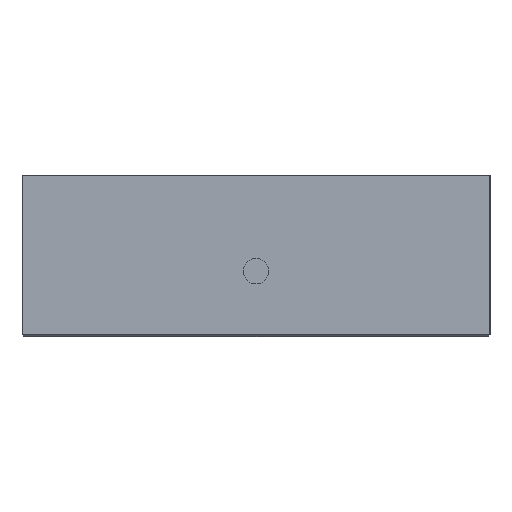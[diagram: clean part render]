
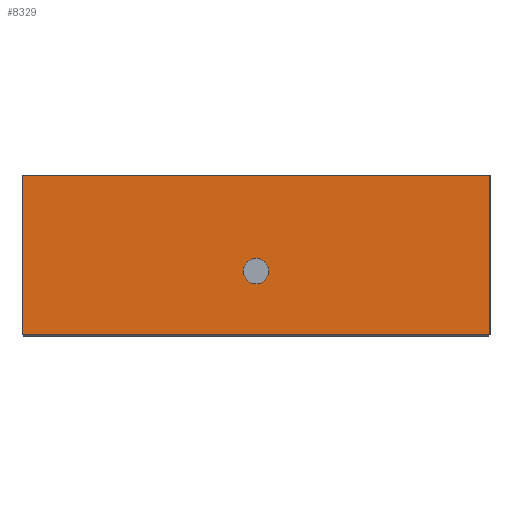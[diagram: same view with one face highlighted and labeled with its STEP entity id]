
A CAD part, left-side view. The second image highlights one B-rep face of the part: STEP entity #8329.
In plain terms, the highlighted planar face has unit normal (-1, 0, 0).
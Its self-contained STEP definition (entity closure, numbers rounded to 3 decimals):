
#167 = CARTESIAN_POINT ( 'NONE',  ( -5., 25.5, 8.56 ) ) ;
#225 = CARTESIAN_POINT ( 'NONE',  ( -5., -5., 195.1 ) ) ;
#389 = ORIENTED_EDGE ( 'NONE', *, *, #10908, .T. ) ;
#392 = DIRECTION ( 'NONE',  ( -1., 0., 0. ) ) ;
#824 = DIRECTION ( 'NONE',  ( 0., -1., 0. ) ) ;
#1388 = CARTESIAN_POINT ( 'NONE',  ( -5., -5., 195.1 ) ) ;
#1540 = FACE_BOUND ( 'NONE', #8788, .T. ) ;
#2083 = EDGE_LOOP ( 'NONE', ( #12547, #10108, #2939, #14561 ) ) ;
#2154 = DIRECTION ( 'NONE',  ( 0., 1., 0. ) ) ;
#2373 = CARTESIAN_POINT ( 'NONE',  ( -5., 56., 21.06 ) ) ;
#2546 = CARTESIAN_POINT ( 'NONE',  ( -5., -5., 0.25 ) ) ;
#2882 = LINE ( 'NONE', #12298, #4487 ) ;
#2939 = ORIENTED_EDGE ( 'NONE', *, *, #3633, .F. ) ;
#3208 = LINE ( 'NONE', #4574, #12568 ) ;
#3599 = AXIS2_PLACEMENT_3D ( 'NONE', #1388, #392, #6028 ) ;
#3633 = EDGE_CURVE ( 'NONE', #12577, #10774, #14051, .T. ) ;
#3834 = LINE ( 'NONE', #2546, #9687 ) ;
#3891 = EDGE_CURVE ( 'NONE', #12785, #12577, #2882, .T. ) ;
#4424 = AXIS2_PLACEMENT_3D ( 'NONE', #167, #4816, #2154 ) ;
#4487 = VECTOR ( 'NONE', #824, 1000. ) ;
#4496 = DIRECTION ( 'NONE',  ( 0., 0., -1. ) ) ;
#4574 = CARTESIAN_POINT ( 'NONE',  ( -5., 56., 195.1 ) ) ;
#4816 = DIRECTION ( 'NONE',  ( 1., 0., 0. ) ) ;
#5935 = CARTESIAN_POINT ( 'NONE',  ( -5., 27.15, 8.56 ) ) ;
#6028 = DIRECTION ( 'NONE',  ( 0., -1., 0. ) ) ;
#6178 = FACE_OUTER_BOUND ( 'NONE', #2083, .T. ) ;
#6266 = CARTESIAN_POINT ( 'NONE',  ( -5., 25.5, 8.56 ) ) ;
#6546 = VERTEX_POINT ( 'NONE', #5935 ) ;
#7513 = EDGE_CURVE ( 'NONE', #11144, #6546, #14261, .T. ) ;
#8329 = ADVANCED_FACE ( 'NONE', ( #1540, #6178 ), #13230, .T. ) ;
#8389 = CARTESIAN_POINT ( 'NONE',  ( -5., -5., 21.06 ) ) ;
#8500 = EDGE_CURVE ( 'NONE', #12785, #14171, #3208, .T. ) ;
#8771 = DIRECTION ( 'NONE',  ( 0., 1., 0. ) ) ;
#8788 = EDGE_LOOP ( 'NONE', ( #14760, #389 ) ) ;
#9239 = CARTESIAN_POINT ( 'NONE',  ( -5., 23.85, 8.56 ) ) ;
#9362 = VECTOR ( 'NONE', #10788, 1000. ) ;
#9687 = VECTOR ( 'NONE', #12943, 1000. ) ;
#10108 = ORIENTED_EDGE ( 'NONE', *, *, #13356, .T. ) ;
#10774 = VERTEX_POINT ( 'NONE', #11973 ) ;
#10788 = DIRECTION ( 'NONE',  ( 0., 0., -1. ) ) ;
#10908 = EDGE_CURVE ( 'NONE', #6546, #11144, #14605, .T. ) ;
#11144 = VERTEX_POINT ( 'NONE', #9239 ) ;
#11973 = CARTESIAN_POINT ( 'NONE',  ( -5., -5., 0.25 ) ) ;
#12298 = CARTESIAN_POINT ( 'NONE',  ( -5., -5., 21.06 ) ) ;
#12547 = ORIENTED_EDGE ( 'NONE', *, *, #8500, .T. ) ;
#12555 = AXIS2_PLACEMENT_3D ( 'NONE', #6266, #13175, #8771 ) ;
#12568 = VECTOR ( 'NONE', #4496, 1000. ) ;
#12577 = VERTEX_POINT ( 'NONE', #8389 ) ;
#12785 = VERTEX_POINT ( 'NONE', #2373 ) ;
#12943 = DIRECTION ( 'NONE',  ( 0., -1., 0. ) ) ;
#13175 = DIRECTION ( 'NONE',  ( 1., 0., 0. ) ) ;
#13230 = PLANE ( 'NONE',  #3599 ) ;
#13356 = EDGE_CURVE ( 'NONE', #14171, #10774, #3834, .T. ) ;
#14009 = CARTESIAN_POINT ( 'NONE',  ( -5., 56., 0.25 ) ) ;
#14051 = LINE ( 'NONE', #225, #9362 ) ;
#14171 = VERTEX_POINT ( 'NONE', #14009 ) ;
#14261 = CIRCLE ( 'NONE', #12555, 1.65 ) ;
#14561 = ORIENTED_EDGE ( 'NONE', *, *, #3891, .F. ) ;
#14605 = CIRCLE ( 'NONE', #4424, 1.65 ) ;
#14760 = ORIENTED_EDGE ( 'NONE', *, *, #7513, .T. ) ;
